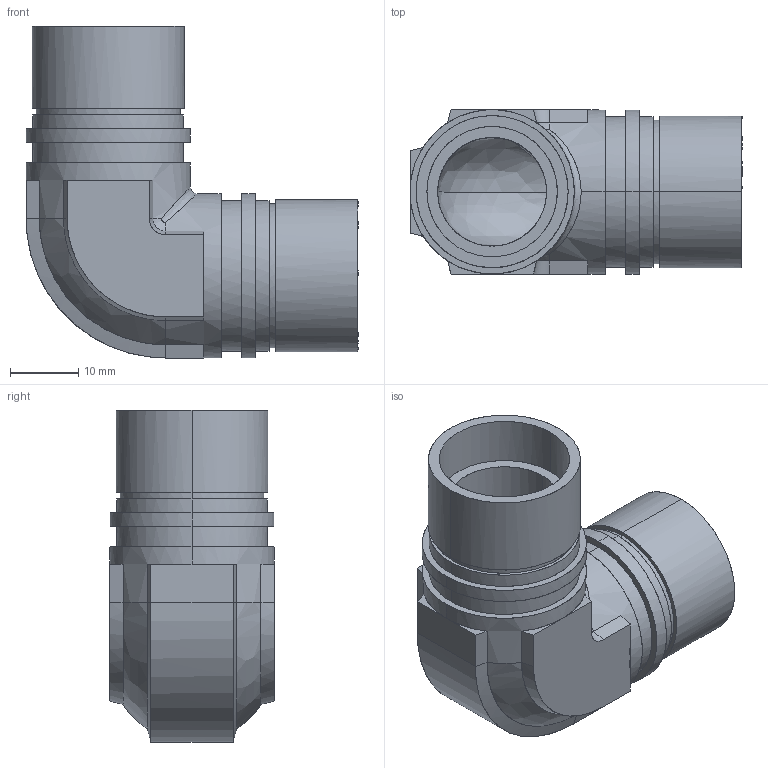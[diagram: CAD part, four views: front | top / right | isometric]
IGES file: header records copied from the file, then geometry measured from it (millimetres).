
Start section: Comment
Global section: file name: 70-19.05UE-P.igs; native system:  By Spatial Corp.; preprocessor: XPlus GENERIC/IGES 3.0; author: Author; organization: Title; date: 20100223.111618; units: inch
Bounding box: 48.5 x 24 x 48.5 mm (x, y, z)
Surface area: 9807.7 mm2 (no closed solid volume)
Topology: 0 solids, 0 shells, 88 faces, 388 edges, 388 vertices
Faces by surface type: bspline 88
